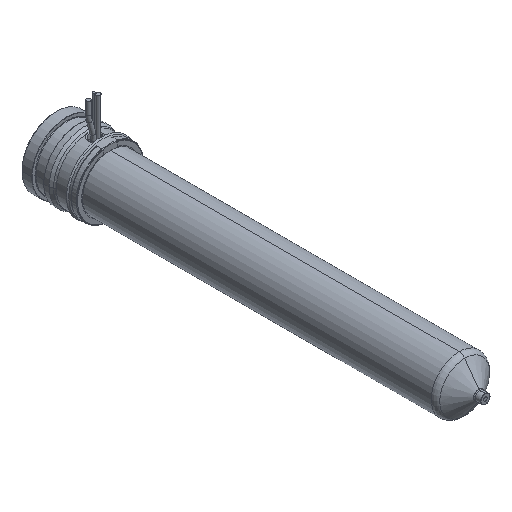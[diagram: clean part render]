
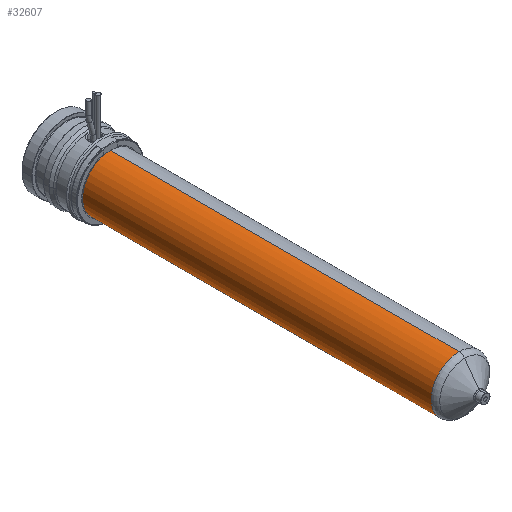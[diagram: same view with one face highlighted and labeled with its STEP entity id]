
A CAD part, isometric view. The second image highlights one B-rep face of the part: STEP entity #32607.
In plain terms, the highlighted cylindrical face has radius 12 mm (diameter 24 mm), a partial arc.
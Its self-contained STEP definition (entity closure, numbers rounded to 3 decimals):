
#32252=CARTESIAN_POINT('',(0.,-24.,0.));
#32253=DIRECTION('',(0.,1.,0.));
#32254=DIRECTION('',(0.,0.,-1.));
#32255=AXIS2_PLACEMENT_3D('',#32252,#32253,#32254);
#32260=DIRECTION('',(0.,1.,0.));
#32261=VECTOR('',#32260,150.671);
#32262=CARTESIAN_POINT('',(0.,-174.671,12.));
#32263=LINE('',#32262,#32261);
#32275=DIRECTION('',(0.,1.,0.));
#32276=VECTOR('',#32275,150.671);
#32277=CARTESIAN_POINT('',(0.,-174.671,-12.));
#32278=LINE('',#32277,#32276);
#32306=CARTESIAN_POINT('',(0.,-174.671,0.));
#32307=DIRECTION('',(0.,-1.,0.));
#32308=DIRECTION('',(0.,0.,1.));
#32309=AXIS2_PLACEMENT_3D('',#32306,#32307,#32308);
#32496=CARTESIAN_POINT('',(0.,-174.671,12.));
#32497=CARTESIAN_POINT('',(0.,-24.,12.));
#32498=VERTEX_POINT('',#32496);
#32499=VERTEX_POINT('',#32497);
#32504=CARTESIAN_POINT('',(0.,-174.671,-12.));
#32505=CARTESIAN_POINT('',(0.,-24.,-12.));
#32506=VERTEX_POINT('',#32504);
#32507=VERTEX_POINT('',#32505);
#32593=CARTESIAN_POINT('',(0.,-11.7,0.));
#32594=DIRECTION('',(0.,-1.,0.));
#32595=DIRECTION('',(0.,0.,1.));
#32596=AXIS2_PLACEMENT_3D('',#32593,#32594,#32595);
#32597=CYLINDRICAL_SURFACE('',#32596,12.);
#32599=ORIENTED_EDGE('',*,*,#32598,.F.);
#32601=ORIENTED_EDGE('',*,*,#32600,.T.);
#32603=ORIENTED_EDGE('',*,*,#32602,.T.);
#32604=ORIENTED_EDGE('',*,*,#32586,.T.);
#32605=EDGE_LOOP('',(#32599,#32601,#32603,#32604));
#32606=FACE_OUTER_BOUND('',#32605,.F.);
#32607=ADVANCED_FACE('',(#32606),#32597,.T.);
#32256=CIRCLE('',#32255,12.);
#32310=CIRCLE('',#32309,12.);
#32586=EDGE_CURVE('',#32507,#32499,#32256,.T.);
#32598=EDGE_CURVE('',#32498,#32499,#32263,.T.);
#32600=EDGE_CURVE('',#32498,#32506,#32310,.T.);
#32602=EDGE_CURVE('',#32506,#32507,#32278,.T.);
